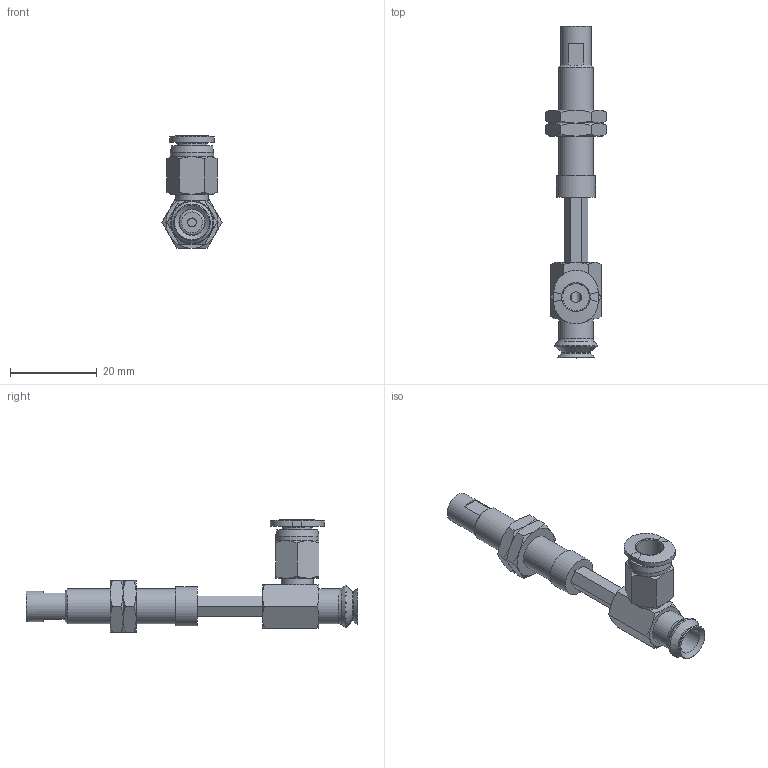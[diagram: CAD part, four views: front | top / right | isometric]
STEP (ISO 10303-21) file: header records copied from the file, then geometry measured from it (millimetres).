
FILE_DESCRIPTION(('STEP AP203'),'1');
FILE_NAME('-O.stp','2025-04-24T06:08:10',(' '),(' '),'Spatial InterOp 3D',' ',' ');
FILE_SCHEMA(('CONFIG_CONTROL_DESIGN'));
Length unit declared in the file: millimetre
Products named in the file (7): BNABPJYH-8-15-※-O; CONNECTOR_H-8-15; NAPJH-8-15-NUT; NAPJTH-8-15-FBODY; NAPJTH-8-15-MBODY; BPJG-8-※; PC-C_06-M5
Assembly tree (7 placements, depth 2):
  BNABPJYH-8-15-※-O
    CONNECTOR_H-8-15
    NAPJH-8-15-NUT  x2
    NAPJTH-8-15-FBODY
    NAPJTH-8-15-MBODY
    BPJG-8-※
    PC-C_06-M5
Bounding box: 13.86 x 76.5 x 25.98 mm (x, y, z)
Volume: 3889.8 mm3; surface area: 5940.8 mm2
Topology: 6 solids, 9 shells, 187 faces, 398 edges, 241 vertices
Faces by surface type: plane 78, cone 68, cylinder 23, torus 11, bspline 4, revolution 3
Full cylindrical faces by diameter (mm): 2 x1, 4 x4, 4.134 x2, 5 x2, 6 x2, 7 x2, 7.188 x2, 7.4 x1, 8 x2, 8.2 x1, 9 x1, 10 x1
Entity records: 4896 total; most frequent: CARTESIAN_POINT 1365, DIRECTION 653, ORIENTED_EDGE 580, EDGE_CURVE 292, AXIS2_PLACEMENT_3D 278, EDGE_LOOP 238, VERTEX_POINT 204, FACE_OUTER_BOUND 135
